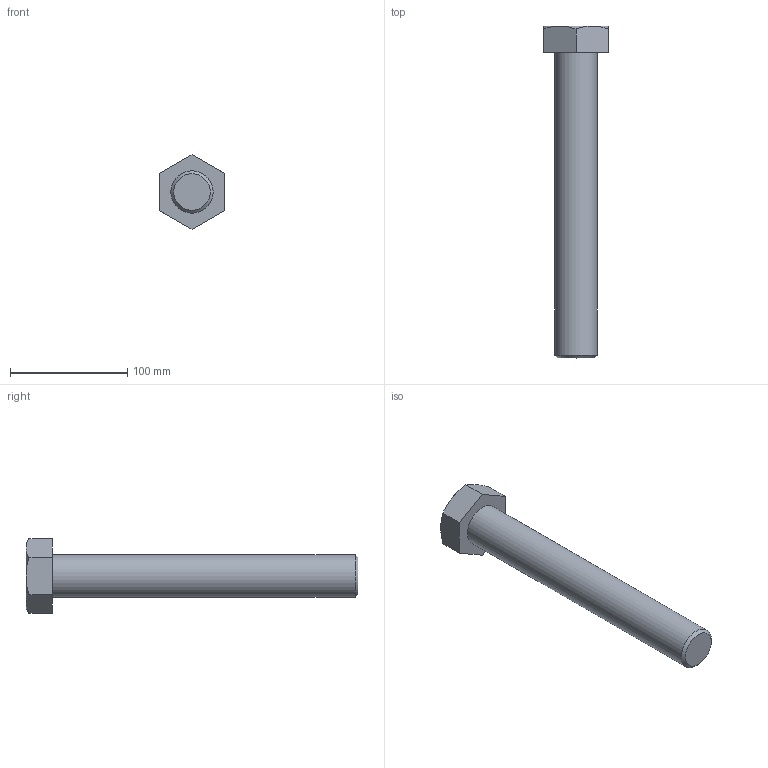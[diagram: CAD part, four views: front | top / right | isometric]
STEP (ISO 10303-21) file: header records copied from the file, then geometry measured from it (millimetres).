
FILE_DESCRIPTION(/* description */ (''),/* implementation_level */ '2;1');
FILE_NAME(/* name */ 'C:\Users\unitec\Documents\Inventor\各種小物\JIS\JIS B 1180 六角ボルト 等級C\hbc36\M36x260.stp',/* time_stamp */ '2015-02-13T14:56:37+09:00',/* author */ ('unitec'),/* organization */ (''),/* preprocessor_version */ 'ST-DEVELOPER v15.2',/* originating_system */ 'Autodesk Inventor 2014',/* authorisation */ '');
FILE_SCHEMA (('AUTOMOTIVE_DESIGN { 1 0 10303 214 3 1 1 }'));
Length unit declared in the file: millimetre
Products named in the file (1): M36x260
Bounding box: 55 x 282.5 x 63.51 mm (x, y, z)
Volume: 323087 mm3; surface area: 38638.7 mm2
Topology: 1 solids, 1 shells, 17 faces, 35 edges, 21 vertices
Faces by surface type: plane 9, cone 7, cylinder 1
Full cylindrical faces by diameter (mm): 36 x1
Entity records: 441 total; most frequent: CARTESIAN_POINT 96, ORIENTED_EDGE 66, DIRECTION 66, EDGE_CURVE 33, AXIS2_PLACEMENT_3D 27, VERTEX_POINT 21, EDGE_LOOP 20, ADVANCED_FACE 17
